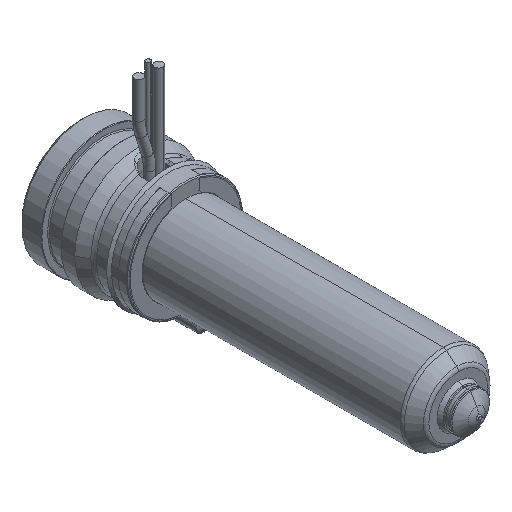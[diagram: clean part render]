
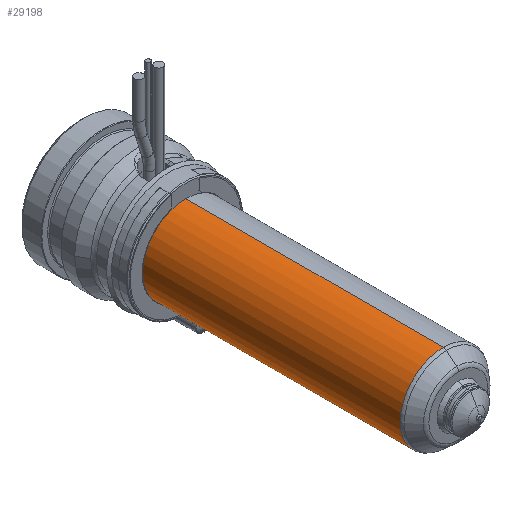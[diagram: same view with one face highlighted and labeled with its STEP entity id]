
A CAD part, isometric view. The second image highlights one B-rep face of the part: STEP entity #29198.
In plain terms, the highlighted cylindrical face has radius 9 mm (diameter 18 mm), a partial arc.
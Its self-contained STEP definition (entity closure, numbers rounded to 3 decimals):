
#28581=CARTESIAN_POINT('',(0.,-75.836,0.));
#28582=DIRECTION('',(0.,-1.,0.));
#28583=DIRECTION('',(0.,0.,1.));
#28584=AXIS2_PLACEMENT_3D('',#28581,#28582,#28583);
#28589=CARTESIAN_POINT('',(0.,-22.,0.));
#28590=DIRECTION('',(0.,-1.,0.));
#28591=DIRECTION('',(0.,0.,1.));
#28592=AXIS2_PLACEMENT_3D('',#28589,#28590,#28591);
#28597=DIRECTION('',(0.,-1.,0.));
#28598=VECTOR('',#28597,53.836);
#28599=CARTESIAN_POINT('',(0.,-22.,9.));
#28600=LINE('',#28599,#28598);
#28612=DIRECTION('',(0.,-1.,0.));
#28613=VECTOR('',#28612,53.836);
#28614=CARTESIAN_POINT('',(0.,-22.,-9.));
#28615=LINE('',#28614,#28613);
#28815=CARTESIAN_POINT('',(0.,-22.,9.));
#28816=CARTESIAN_POINT('',(0.,-75.836,9.));
#28817=VERTEX_POINT('',#28815);
#28818=VERTEX_POINT('',#28816);
#28841=CARTESIAN_POINT('',(0.,-22.,-9.));
#28842=CARTESIAN_POINT('',(0.,-75.836,-9.));
#28843=VERTEX_POINT('',#28841);
#28844=VERTEX_POINT('',#28842);
#29184=CARTESIAN_POINT('',(0.,-14.7,0.));
#29185=DIRECTION('',(0.,-1.,0.));
#29186=DIRECTION('',(0.,0.,1.));
#29187=AXIS2_PLACEMENT_3D('',#29184,#29185,#29186);
#29188=CYLINDRICAL_SURFACE('',#29187,9.);
#29190=ORIENTED_EDGE('',*,*,#29189,.T.);
#29191=ORIENTED_EDGE('',*,*,#29179,.T.);
#29193=ORIENTED_EDGE('',*,*,#29192,.F.);
#29195=ORIENTED_EDGE('',*,*,#29194,.F.);
#29196=EDGE_LOOP('',(#29190,#29191,#29193,#29195));
#29197=FACE_OUTER_BOUND('',#29196,.F.);
#29198=ADVANCED_FACE('',(#29197),#29188,.T.);
#28585=CIRCLE('',#28584,9.);
#28593=CIRCLE('',#28592,9.);
#29179=EDGE_CURVE('',#28818,#28844,#28585,.T.);
#29189=EDGE_CURVE('',#28817,#28818,#28600,.T.);
#29192=EDGE_CURVE('',#28843,#28844,#28615,.T.);
#29194=EDGE_CURVE('',#28817,#28843,#28593,.T.);
